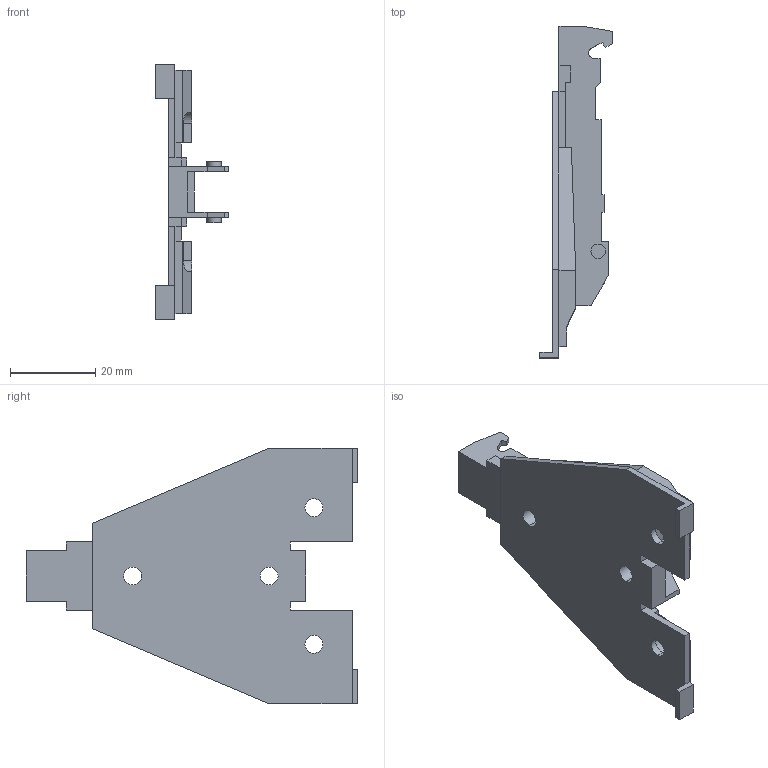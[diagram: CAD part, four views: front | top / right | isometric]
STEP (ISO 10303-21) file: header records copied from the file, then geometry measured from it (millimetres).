
FILE_DESCRIPTION (( 'STEP AP214' ), '1' );
FILE_NAME ('1D Deltamontageplatte Spax_H3,5.step', '2010-11-18T09:42:07', ( 'grass' ), ( '' ), 'SwSTEP 2.0', 'SolidWorks 2010', '' );
FILE_SCHEMA (( 'AUTOMOTIVE_DESIGN' ));
Length unit declared in the file: millimetre
Products named in the file (1): 1D Deltamontageplatte Spax_H3,5
Bounding box: 17 x 77.75 x 60 mm (x, y, z)
Volume: 12364.9 mm3; surface area: 9468 mm2
Topology: 1 solids, 1 shells, 127 faces, 367 edges, 244 vertices
Faces by surface type: plane 108, cylinder 19
Entity records: 4172 total; most frequent: CARTESIAN_POINT 748, ORIENTED_EDGE 734, DIRECTION 657, EDGE_CURVE 367, LINE 327, VECTOR 327, VERTEX_POINT 244, AXIS2_PLACEMENT_3D 165
